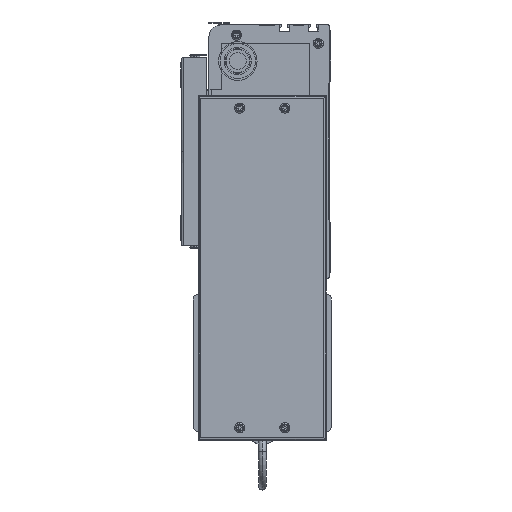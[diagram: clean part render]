
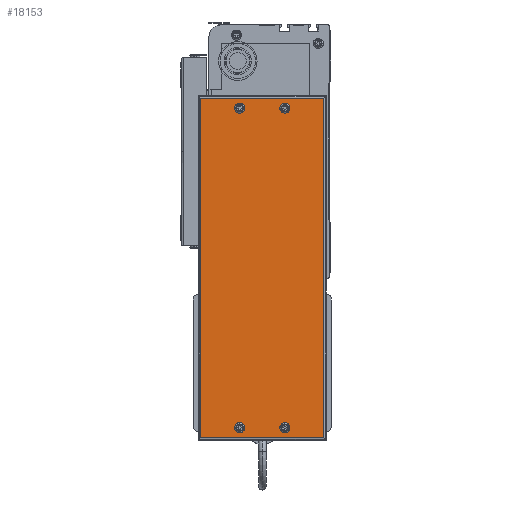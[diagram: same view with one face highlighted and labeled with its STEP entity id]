
A CAD part, left-side view. The second image highlights one B-rep face of the part: STEP entity #18153.
In plain terms, the highlighted planar face has unit normal (-1, 0, 0) as drawn and (1, 0, 0) by its records, which use the part's own axes.
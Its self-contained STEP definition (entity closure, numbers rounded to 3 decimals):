
#2315 = DIRECTION ( 'NONE',  ( 0., 0., -1. ) ) ;
#2348 = AXIS2_PLACEMENT_3D ( 'NONE', #2368, #2531, #2315 ) ;
#2368 = CARTESIAN_POINT ( 'NONE',  ( 50., 264., -69. ) ) ;
#2459 = CIRCLE ( 'NONE', #2348, 2.5 ) ;
#2531 = DIRECTION ( 'NONE',  ( 1., 0., 0. ) ) ;
#5832 = CARTESIAN_POINT ( 'NONE',  ( 50., 10., -66.5 ) ) ;
#14268 = CARTESIAN_POINT ( 'NONE',  ( 50., 272., 0. ) ) ;
#14270 = LINE ( 'NONE', #14268, #19152 ) ;
#18153 = ADVANCED_FACE ( 'NONE', ( #102668, #102666, #102662, #102642, #102641 ), #114371, .F. ) ;
#18155 = ORIENTED_EDGE ( 'NONE', *, *, #18165, .T. ) ;
#18165 = EDGE_CURVE ( 'NONE', #19362, #19309, #45404, .T. ) ;
#18328 = VERTEX_POINT ( 'NONE', #45236 ) ;
#18460 = VERTEX_POINT ( 'NONE', #45511 ) ;
#18472 = EDGE_CURVE ( 'NONE', #19039, #18460, #45464, .T. ) ;
#18712 = EDGE_LOOP ( 'NONE', ( #18155, #19112, #19310, #19308 ) ) ;
#18851 = VERTEX_POINT ( 'NONE', #80250 ) ;
#18899 = EDGE_CURVE ( 'NONE', #18945, #18920, #74542, .T. ) ;
#18920 = VERTEX_POINT ( 'NONE', #81064 ) ;
#18945 = VERTEX_POINT ( 'NONE', #71830 ) ;
#18951 = EDGE_CURVE ( 'NONE', #93413, #18851, #72005, .T. ) ;
#19039 = VERTEX_POINT ( 'NONE', #69354 ) ;
#19074 = VERTEX_POINT ( 'NONE', #154883 ) ;
#19078 = EDGE_CURVE ( 'NONE', #18328, #19074, #2459, .T. ) ;
#19093 = EDGE_CURVE ( 'NONE', #19150, #19362, #14270, .T. ) ;
#19095 = EDGE_CURVE ( 'NONE', #18851, #93413, #24995, .T. ) ;
#19102 = ORIENTED_EDGE ( 'NONE', *, *, #18951, .F. ) ;
#19104 = EDGE_CURVE ( 'NONE', #19309, #19172, #97216, .T. ) ;
#19112 = ORIENTED_EDGE ( 'NONE', *, *, #19104, .T. ) ;
#19150 = VERTEX_POINT ( 'NONE', #144929 ) ;
#19152 = VECTOR ( 'NONE', #55588, 1000. ) ;
#19172 = VERTEX_POINT ( 'NONE', #144927 ) ;
#19229 = ORIENTED_EDGE ( 'NONE', *, *, #18899, .F. ) ;
#19261 = ORIENTED_EDGE ( 'NONE', *, *, #18472, .F. ) ;
#19263 = ORIENTED_EDGE ( 'NONE', *, *, #19095, .F. ) ;
#19301 = EDGE_LOOP ( 'NONE', ( #19363, #19381 ) ) ;
#19307 = EDGE_CURVE ( 'NONE', #19074, #18328, #114418, .T. ) ;
#19308 = ORIENTED_EDGE ( 'NONE', *, *, #19093, .T. ) ;
#19309 = VERTEX_POINT ( 'NONE', #66142 ) ;
#19310 = ORIENTED_EDGE ( 'NONE', *, *, #19691, .T. ) ;
#19338 = EDGE_LOOP ( 'NONE', ( #19263, #19102 ) ) ;
#19356 = ORIENTED_EDGE ( 'NONE', *, *, #19379, .F. ) ;
#19362 = VERTEX_POINT ( 'NONE', #67224 ) ;
#19363 = ORIENTED_EDGE ( 'NONE', *, *, #19307, .F. ) ;
#19370 = ORIENTED_EDGE ( 'NONE', *, *, #19386, .F. ) ;
#19377 = EDGE_LOOP ( 'NONE', ( #19356, #19261 ) ) ;
#19379 = EDGE_CURVE ( 'NONE', #18460, #19039, #125969, .T. ) ;
#19380 = EDGE_LOOP ( 'NONE', ( #19370, #19229 ) ) ;
#19381 = ORIENTED_EDGE ( 'NONE', *, *, #19078, .F. ) ;
#19386 = EDGE_CURVE ( 'NONE', #18920, #18945, #114422, .T. ) ;
#19691 = EDGE_CURVE ( 'NONE', #19172, #19150, #113883, .T. ) ;
#24819 = AXIS2_PLACEMENT_3D ( 'NONE', #24919, #24843, #24832 ) ;
#24832 = DIRECTION ( 'NONE',  ( 0., 0., -1. ) ) ;
#24843 = DIRECTION ( 'NONE',  ( 1., 0., 0. ) ) ;
#24919 = CARTESIAN_POINT ( 'NONE',  ( 50., 10., -69. ) ) ;
#24995 = CIRCLE ( 'NONE', #24819, 2.5 ) ;
#44979 = DIRECTION ( 'NONE',  ( 0., -1., 0. ) ) ;
#45236 = CARTESIAN_POINT ( 'NONE',  ( 50., 264., -66.5 ) ) ;
#45254 = CARTESIAN_POINT ( 'NONE',  ( 50., 274., -2. ) ) ;
#45289 = VECTOR ( 'NONE', #44979, 1000. ) ;
#45404 = LINE ( 'NONE', #45254, #45289 ) ;
#45463 = CARTESIAN_POINT ( 'NONE',  ( 50., 10., -33. ) ) ;
#45464 = CIRCLE ( 'NONE', #45572, 2.5 ) ;
#45495 = DIRECTION ( 'NONE',  ( 1., 0., 0. ) ) ;
#45511 = CARTESIAN_POINT ( 'NONE',  ( 50., 10., -35.5 ) ) ;
#45570 = DIRECTION ( 'NONE',  ( 0., 0., -1. ) ) ;
#45572 = AXIS2_PLACEMENT_3D ( 'NONE', #45463, #45495, #45570 ) ;
#55588 = DIRECTION ( 'NONE',  ( 0., 0., 1. ) ) ;
#66142 = CARTESIAN_POINT ( 'NONE',  ( 50., 2., -2. ) ) ;
#67224 = CARTESIAN_POINT ( 'NONE',  ( 50., 272., -2. ) ) ;
#68166 = CARTESIAN_POINT ( 'NONE',  ( 50., 264., -33. ) ) ;
#68701 = DIRECTION ( 'NONE',  ( 0., 0., -1. ) ) ;
#68798 = DIRECTION ( 'NONE',  ( 1., 0., 0. ) ) ;
#69354 = CARTESIAN_POINT ( 'NONE',  ( 50., 10., -30.5 ) ) ;
#71760 = DIRECTION ( 'NONE',  ( 0., 0., -1. ) ) ;
#71780 = DIRECTION ( 'NONE',  ( 1., 0., 0. ) ) ;
#71830 = CARTESIAN_POINT ( 'NONE',  ( 50., 264., -30.5 ) ) ;
#71958 = AXIS2_PLACEMENT_3D ( 'NONE', #72093, #71780, #71760 ) ;
#72005 = CIRCLE ( 'NONE', #71958, 2.5 ) ;
#72093 = CARTESIAN_POINT ( 'NONE',  ( 50., 10., -69. ) ) ;
#74542 = CIRCLE ( 'NONE', #74562, 2.5 ) ;
#74562 = AXIS2_PLACEMENT_3D ( 'NONE', #68166, #68798, #68701 ) ;
#80250 = CARTESIAN_POINT ( 'NONE',  ( 50., 10., -71.5 ) ) ;
#81064 = CARTESIAN_POINT ( 'NONE',  ( 50., 264., -35.5 ) ) ;
#93413 = VERTEX_POINT ( 'NONE', #5832 ) ;
#97214 = CARTESIAN_POINT ( 'NONE',  ( 50., 2., 0. ) ) ;
#97216 = LINE ( 'NONE', #97214, #97302 ) ;
#97230 = DIRECTION ( 'NONE',  ( 0., 0., -1. ) ) ;
#97302 = VECTOR ( 'NONE', #97230, 1000. ) ;
#102641 = FACE_BOUND ( 'NONE', #19380, .T. ) ;
#102642 = FACE_BOUND ( 'NONE', #19301, .T. ) ;
#102662 = FACE_BOUND ( 'NONE', #19377, .T. ) ;
#102666 = FACE_BOUND ( 'NONE', #19338, .T. ) ;
#102668 = FACE_OUTER_BOUND ( 'NONE', #18712, .T. ) ;
#113294 = CARTESIAN_POINT ( 'NONE',  ( 50., 264., -69. ) ) ;
#113308 = AXIS2_PLACEMENT_3D ( 'NONE', #113294, #113569, #113665 ) ;
#113569 = DIRECTION ( 'NONE',  ( 1., 0., 0. ) ) ;
#113570 = DIRECTION ( 'NONE',  ( 0., 0., 1. ) ) ;
#113665 = DIRECTION ( 'NONE',  ( 0., 0., -1. ) ) ;
#113800 = DIRECTION ( 'NONE',  ( -1., 0., 0. ) ) ;
#113876 = DIRECTION ( 'NONE',  ( 0., 1., 0. ) ) ;
#113877 = VECTOR ( 'NONE', #113876, 1000. ) ;
#113882 = CARTESIAN_POINT ( 'NONE',  ( 50., 274., -100. ) ) ;
#113883 = LINE ( 'NONE', #113882, #113877 ) ;
#114371 = PLANE ( 'NONE',  #114374 ) ;
#114373 = CARTESIAN_POINT ( 'NONE',  ( 50., 274., 0. ) ) ;
#114374 = AXIS2_PLACEMENT_3D ( 'NONE', #114373, #113800, #113570 ) ;
#114397 = DIRECTION ( 'NONE',  ( 1., 0., 0. ) ) ;
#114398 = CARTESIAN_POINT ( 'NONE',  ( 50., 264., -33. ) ) ;
#114400 = DIRECTION ( 'NONE',  ( 0., 0., -1. ) ) ;
#114418 = CIRCLE ( 'NONE', #113308, 2.5 ) ;
#114422 = CIRCLE ( 'NONE', #114428, 2.5 ) ;
#114428 = AXIS2_PLACEMENT_3D ( 'NONE', #114398, #114397, #114400 ) ;
#125730 = CARTESIAN_POINT ( 'NONE',  ( 50., 10., -33. ) ) ;
#125782 = DIRECTION ( 'NONE',  ( 0., 0., -1. ) ) ;
#125785 = DIRECTION ( 'NONE',  ( 1., 0., 0. ) ) ;
#125969 = CIRCLE ( 'NONE', #126187, 2.5 ) ;
#126187 = AXIS2_PLACEMENT_3D ( 'NONE', #125730, #125785, #125782 ) ;
#144927 = CARTESIAN_POINT ( 'NONE',  ( 50., 2., -100. ) ) ;
#144929 = CARTESIAN_POINT ( 'NONE',  ( 50., 272., -100. ) ) ;
#154883 = CARTESIAN_POINT ( 'NONE',  ( 50., 264., -71.5 ) ) ;
